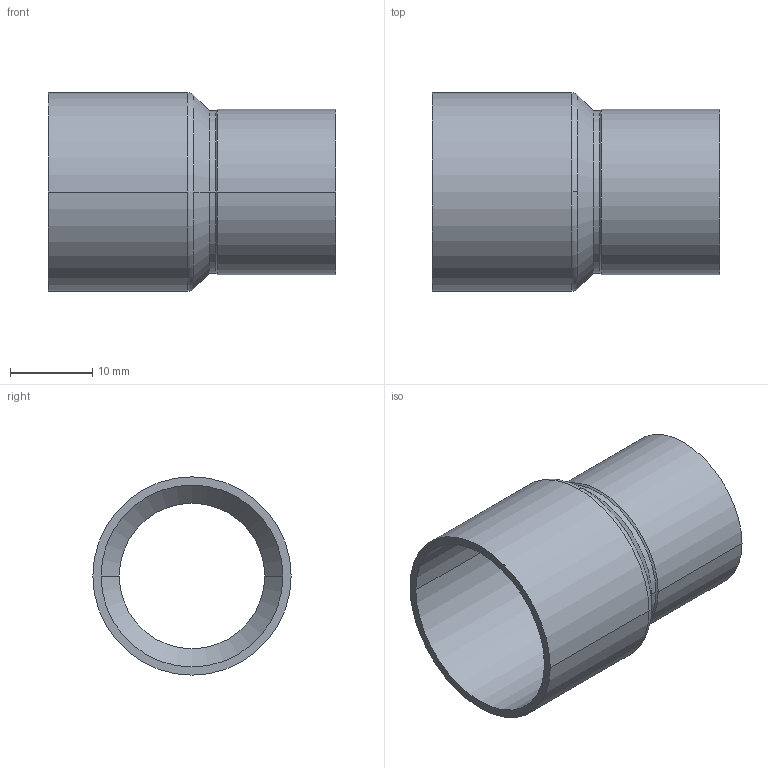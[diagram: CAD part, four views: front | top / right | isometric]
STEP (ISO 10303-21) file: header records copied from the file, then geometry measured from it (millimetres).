
FILE_DESCRIPTION((''),'2;1');
FILE_NAME('G:\Technics\CAD\Bauteile\Serie 15240\152402218.stp','2005-10-21T12:51:08',('boden'),(''),'Autodesk Inventor 8','Autodesk Inventor 8','');
FILE_SCHEMA(('AUTOMOTIVE_DESIGN { 1 0 10303 214 1 1 1 1 }'));
Length unit declared in the file: millimetre
Products named in the file (1): 152402218
Bounding box: 35 x 24.13 x 24.13 mm (x, y, z)
Volume: 2393 mm3; surface area: 4918.6 mm2
Topology: 1 solids, 1 shells, 24 faces, 52 edges, 30 vertices
Faces by surface type: cylinder 12, cone 8, torus 2, plane 2
Entity records: 683 total; most frequent: DIRECTION 134, CARTESIAN_POINT 107, ORIENTED_EDGE 104, AXIS2_PLACEMENT_3D 57, EDGE_CURVE 52, CIRCLE 32, VERTEX_POINT 30, EDGE_LOOP 26
